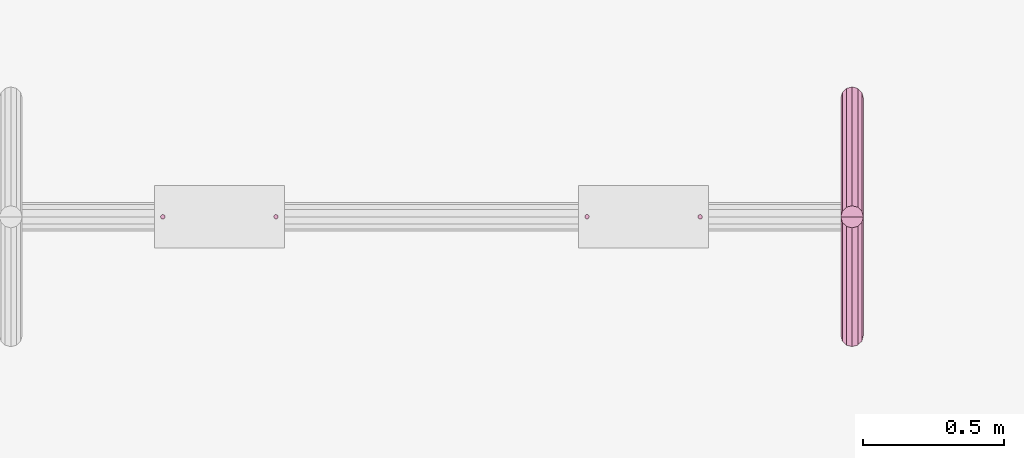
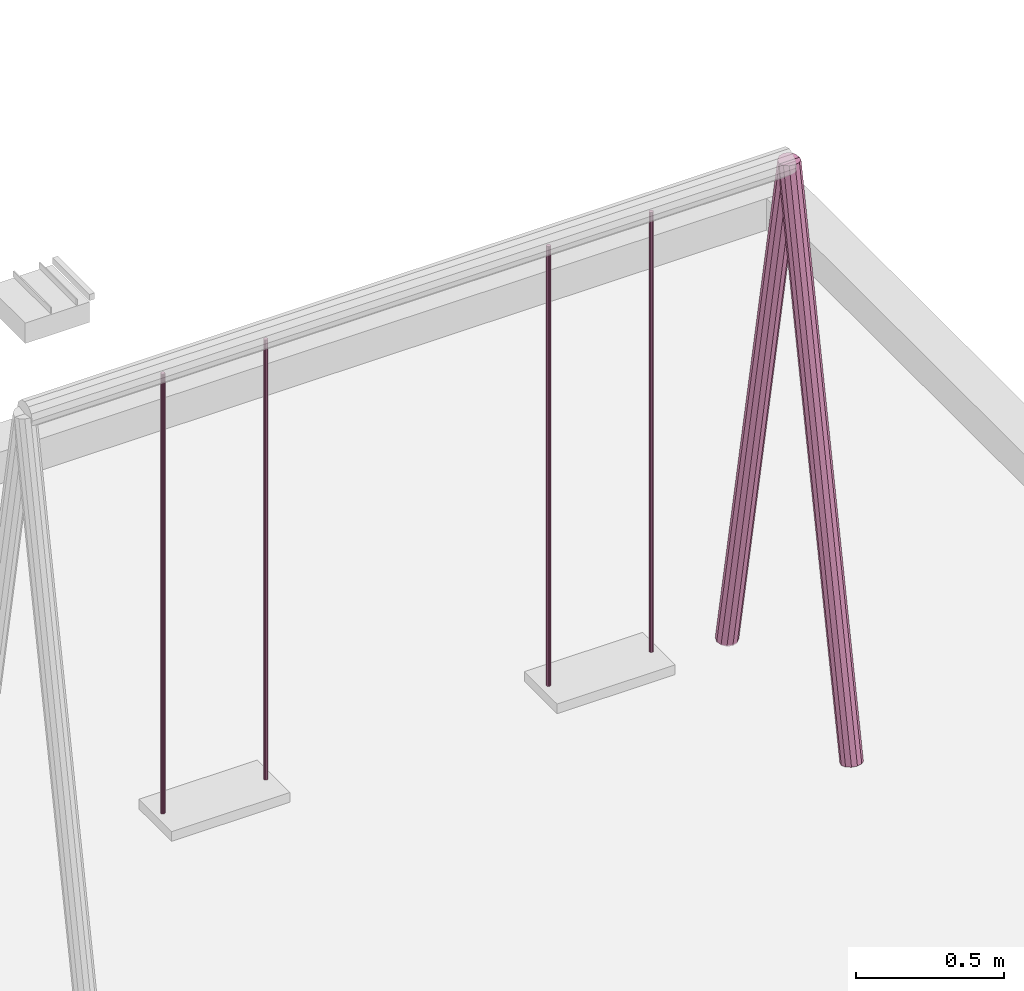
# One storey, part 79 of 90: 6 furnishings.
"""IFC2X3 building model written with IfcOpenShell, lengths in metres."""

from ifc_helpers import new_model, si_unit, origin, origin_with_axes, place, context, subcontext, project, spatial, faceted_brep, element, save


model = new_model("IFC2X3")

# Units and contexts
model_context = context("Model", 3, precision=1e-05, world=origin_with_axes())
body_context = subcontext(model_context, "Body", "Model", "MODEL_VIEW")
ifc_project = project(units=[si_unit("LENGTHUNIT", "METRE"), si_unit("AREAUNIT", "SQUARE_METRE"), si_unit("VOLUMEUNIT", "CUBIC_METRE"), si_unit("PLANEANGLEUNIT", "RADIAN")], contexts=[model_context])

# Site, building, storey
site_placement = place(None, origin_with_axes())
site = spatial("IfcSite", under=ifc_project, at=site_placement, Name="Predio Los Mangos - Morales, San Martín", CompositionType="ELEMENT")
building_placement = place(site_placement, origin())
building = spatial("IfcBuilding", under=site, at=building_placement, Name="Hogar de Refugio Temporal", CompositionType="ELEMENT")
storey_placement = place(building_placement, origin())
storey = spatial("IfcBuildingStorey", under=building, at=storey_placement, Name="NIVEL 1 (NPT +0.00)", CompositionType="ELEMENT", Elevation=0.0)

# Furnishings
furnishing_1_placement = place(storey_placement, origin())
element("IfcFurnishingElement", 1, at=furnishing_1_placement, inside=storey, Name="columpio_pata", ObjectType="Mobiliario exterior / juegos", context=body_context, shape_type="Brep", body=[
    faceted_brep([(40.285, 85.0097, 0.1374), (40.285, 85.4297, 2.3574), (40.265, 85.435, 2.3564), (40.265, 85.015, 0.1364), (40.2504, 85.4493, 2.3537), (40.2504, 85.0294, 0.1337), (40.245, 85.469, 2.35), (40.245, 85.049, 0.13), (40.2504, 85.4887, 2.3463), (40.2504, 85.0687, 0.1263), (40.265, 85.503, 2.3436), (40.265, 85.083, 0.1236), (40.285, 85.5083, 2.3426), (40.285, 85.0883, 0.1226), (40.305, 85.503, 2.3436), (40.305, 85.083, 0.1236), (40.3196, 85.4887, 2.3463), (40.3196, 85.0687, 0.1263), (40.325, 85.469, 2.35), (40.325, 85.049, 0.13), (40.3196, 85.4493, 2.3537), (40.3196, 85.0294, 0.1337), (40.305, 85.435, 2.3564), (40.305, 85.015, 0.1364)], [[[0, 1, 2, 3]], [[3, 2, 4, 5]], [[5, 4, 6, 7]], [[7, 6, 8, 9]], [[9, 8, 10, 11]], [[11, 10, 12, 13]], [[13, 12, 14, 15]], [[15, 14, 16, 17]], [[17, 16, 18, 19]], [[19, 18, 20, 21]], [[2, 1, 22, 20, 18, 16, 14, 12, 10, 8, 6, 4]], [[21, 20, 22, 23]], [[23, 22, 1, 0]], [[0, 3, 5, 7, 9, 11, 13, 15, 17, 19, 21, 23]]]),
])
furnishing_2_placement = place(storey_placement, origin())
element("IfcFurnishingElement", 2, at=furnishing_2_placement, inside=storey, Name="columpio_pata", ObjectType="Mobiliario exterior / juegos", context=body_context, shape_type="Brep", body=[
    faceted_brep([(40.285, 85.9283, 0.1374), (40.285, 85.5083, 2.3574), (40.305, 85.503, 2.3564), (40.305, 85.923, 0.1364), (40.3196, 85.4887, 2.3537), (40.3196, 85.9087, 0.1337), (40.325, 85.469, 2.35), (40.325, 85.889, 0.13), (40.3196, 85.4493, 2.3463), (40.3196, 85.8693, 0.1263), (40.305, 85.435, 2.3436), (40.305, 85.855, 0.1236), (40.285, 85.4297, 2.3426), (40.285, 85.8497, 0.1226), (40.265, 85.435, 2.3436), (40.265, 85.855, 0.1236), (40.2504, 85.4493, 2.3463), (40.2504, 85.8693, 0.1263), (40.245, 85.469, 2.35), (40.245, 85.889, 0.13), (40.2504, 85.4887, 2.3537), (40.2504, 85.9087, 0.1337), (40.265, 85.503, 2.3564), (40.265, 85.923, 0.1364)], [[[0, 1, 2, 3]], [[3, 2, 4, 5]], [[5, 4, 6, 7]], [[7, 6, 8, 9]], [[9, 8, 10, 11]], [[11, 10, 12, 13]], [[13, 12, 14, 15]], [[15, 14, 16, 17]], [[17, 16, 18, 19]], [[19, 18, 20, 21]], [[2, 1, 22, 20, 18, 16, 14, 12, 10, 8, 6, 4]], [[21, 20, 22, 23]], [[23, 22, 1, 0]], [[0, 3, 5, 7, 9, 11, 13, 15, 17, 19, 21, 23]]]),
])
furnishing_3_placement = place(storey_placement, origin())
element("IfcFurnishingElement", 3, at=furnishing_3_placement, inside=storey, Name="cadena", ObjectType="Mobiliario exterior / juegos", context=body_context, shape_type="Brep", body=[
    faceted_brep([(37.8475, 85.461, 0.52), (37.8475, 85.461, 2.33), (37.8435, 85.4621, 2.33), (37.8435, 85.4621, 0.52), (37.8406, 85.465, 2.33), (37.8406, 85.465, 0.52), (37.8395, 85.469, 2.33), (37.8395, 85.469, 0.52), (37.8406, 85.473, 2.33), (37.8406, 85.473, 0.52), (37.8435, 85.4759, 2.33), (37.8435, 85.4759, 0.52), (37.8475, 85.477, 2.33), (37.8475, 85.477, 0.52), (37.8515, 85.4759, 2.33), (37.8515, 85.4759, 0.52), (37.8544, 85.473, 2.33), (37.8544, 85.473, 0.52), (37.8555, 85.469, 2.33), (37.8555, 85.469, 0.52), (37.8544, 85.465, 2.33), (37.8544, 85.465, 0.52), (37.8515, 85.4621, 2.33), (37.8515, 85.4621, 0.52)], [[[0, 1, 2, 3]], [[3, 2, 4, 5]], [[5, 4, 6, 7]], [[7, 6, 8, 9]], [[9, 8, 10, 11]], [[11, 10, 12, 13]], [[13, 12, 14, 15]], [[15, 14, 16, 17]], [[17, 16, 18, 19]], [[19, 18, 20, 21]], [[2, 1, 22, 20, 18, 16, 14, 12, 10, 8, 6, 4]], [[21, 20, 22, 23]], [[23, 22, 1, 0]], [[0, 3, 5, 7, 9, 11, 13, 15, 17, 19, 21, 23]]]),
])
furnishing_4_placement = place(storey_placement, origin())
element("IfcFurnishingElement", 4, at=furnishing_4_placement, inside=storey, Name="cadena", ObjectType="Mobiliario exterior / juegos", context=body_context, shape_type="Brep", body=[
    faceted_brep([(38.2475, 85.461, 0.52), (38.2475, 85.461, 2.33), (38.2435, 85.4621, 2.33), (38.2435, 85.4621, 0.52), (38.2406, 85.465, 2.33), (38.2406, 85.465, 0.52), (38.2395, 85.469, 2.33), (38.2395, 85.469, 0.52), (38.2406, 85.473, 2.33), (38.2406, 85.473, 0.52), (38.2435, 85.4759, 2.33), (38.2435, 85.4759, 0.52), (38.2475, 85.477, 2.33), (38.2475, 85.477, 0.52), (38.2515, 85.4759, 2.33), (38.2515, 85.4759, 0.52), (38.2544, 85.473, 2.33), (38.2544, 85.473, 0.52), (38.2555, 85.469, 2.33), (38.2555, 85.469, 0.52), (38.2544, 85.465, 2.33), (38.2544, 85.465, 0.52), (38.2515, 85.4621, 2.33), (38.2515, 85.4621, 0.52)], [[[0, 1, 2, 3]], [[3, 2, 4, 5]], [[5, 4, 6, 7]], [[7, 6, 8, 9]], [[9, 8, 10, 11]], [[11, 10, 12, 13]], [[13, 12, 14, 15]], [[15, 14, 16, 17]], [[17, 16, 18, 19]], [[19, 18, 20, 21]], [[2, 1, 22, 20, 18, 16, 14, 12, 10, 8, 6, 4]], [[21, 20, 22, 23]], [[23, 22, 1, 0]], [[0, 3, 5, 7, 9, 11, 13, 15, 17, 19, 21, 23]]]),
])
furnishing_5_placement = place(storey_placement, origin())
element("IfcFurnishingElement", 5, at=furnishing_5_placement, inside=storey, Name="cadena", ObjectType="Mobiliario exterior / juegos", context=body_context, shape_type="Brep", body=[
    faceted_brep([(39.3475, 85.461, 0.52), (39.3475, 85.461, 2.33), (39.3435, 85.4621, 2.33), (39.3435, 85.4621, 0.52), (39.3406, 85.465, 2.33), (39.3406, 85.465, 0.52), (39.3395, 85.469, 2.33), (39.3395, 85.469, 0.52), (39.3406, 85.473, 2.33), (39.3406, 85.473, 0.52), (39.3435, 85.4759, 2.33), (39.3435, 85.4759, 0.52), (39.3475, 85.477, 2.33), (39.3475, 85.477, 0.52), (39.3515, 85.4759, 2.33), (39.3515, 85.4759, 0.52), (39.3544, 85.473, 2.33), (39.3544, 85.473, 0.52), (39.3555, 85.469, 2.33), (39.3555, 85.469, 0.52), (39.3544, 85.465, 2.33), (39.3544, 85.465, 0.52), (39.3515, 85.4621, 2.33), (39.3515, 85.4621, 0.52)], [[[0, 1, 2, 3]], [[3, 2, 4, 5]], [[5, 4, 6, 7]], [[7, 6, 8, 9]], [[9, 8, 10, 11]], [[11, 10, 12, 13]], [[13, 12, 14, 15]], [[15, 14, 16, 17]], [[17, 16, 18, 19]], [[19, 18, 20, 21]], [[2, 1, 22, 20, 18, 16, 14, 12, 10, 8, 6, 4]], [[21, 20, 22, 23]], [[23, 22, 1, 0]], [[0, 3, 5, 7, 9, 11, 13, 15, 17, 19, 21, 23]]]),
])
furnishing_6_placement = place(storey_placement, origin())
element("IfcFurnishingElement", 6, at=furnishing_6_placement, inside=storey, Name="cadena", ObjectType="Mobiliario exterior / juegos", context=body_context, shape_type="Brep", body=[
    faceted_brep([(39.7475, 85.461, 0.52), (39.7475, 85.461, 2.33), (39.7435, 85.4621, 2.33), (39.7435, 85.4621, 0.52), (39.7406, 85.465, 2.33), (39.7406, 85.465, 0.52), (39.7395, 85.469, 2.33), (39.7395, 85.469, 0.52), (39.7406, 85.473, 2.33), (39.7406, 85.473, 0.52), (39.7435, 85.4759, 2.33), (39.7435, 85.4759, 0.52), (39.7475, 85.477, 2.33), (39.7475, 85.477, 0.52), (39.7515, 85.4759, 2.33), (39.7515, 85.4759, 0.52), (39.7544, 85.473, 2.33), (39.7544, 85.473, 0.52), (39.7555, 85.469, 2.33), (39.7555, 85.469, 0.52), (39.7544, 85.465, 2.33), (39.7544, 85.465, 0.52), (39.7515, 85.4621, 2.33), (39.7515, 85.4621, 0.52)], [[[0, 1, 2, 3]], [[3, 2, 4, 5]], [[5, 4, 6, 7]], [[7, 6, 8, 9]], [[9, 8, 10, 11]], [[11, 10, 12, 13]], [[13, 12, 14, 15]], [[15, 14, 16, 17]], [[17, 16, 18, 19]], [[19, 18, 20, 21]], [[2, 1, 22, 20, 18, 16, 14, 12, 10, 8, 6, 4]], [[21, 20, 22, 23]], [[23, 22, 1, 0]], [[0, 3, 5, 7, 9, 11, 13, 15, 17, 19, 21, 23]]]),
])

save(model, "model.ifc")
